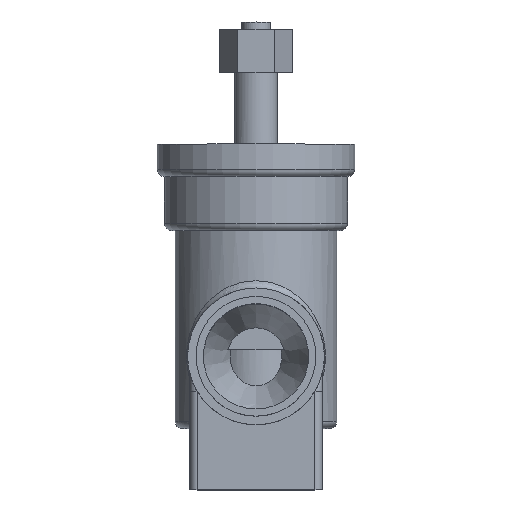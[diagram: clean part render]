
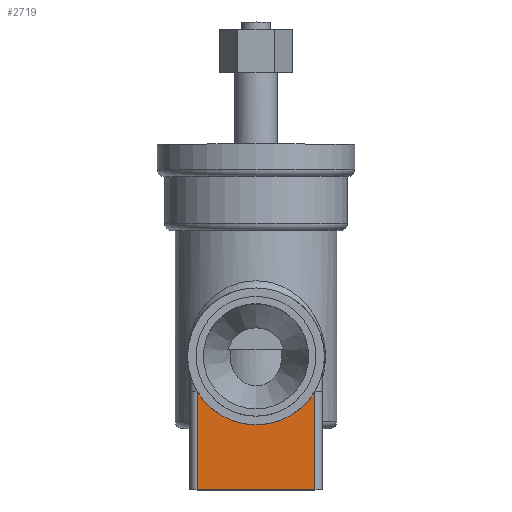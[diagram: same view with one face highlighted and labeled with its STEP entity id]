
A CAD part, top view. The second image highlights one B-rep face of the part: STEP entity #2719.
In plain terms, the highlighted planar face has unit normal (0, 0, 1).
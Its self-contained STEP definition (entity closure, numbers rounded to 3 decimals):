
#269=FACE_OUTER_BOUND('',#434,.T.);
#434=EDGE_LOOP('',(#1819,#1820,#1821,#1822,#1823));
#620=CIRCLE('',#2916,19.);
#621=CIRCLE('',#2917,19.);
#780=LINE('',#4078,#925);
#783=LINE('',#4106,#928);
#784=LINE('',#4108,#929);
#925=VECTOR('',#3252,10.);
#928=VECTOR('',#3267,10.);
#929=VECTOR('',#3268,10.);
#1076=VERTEX_POINT('',#4075);
#1077=VERTEX_POINT('',#4077);
#1082=VERTEX_POINT('',#4105);
#1083=VERTEX_POINT('',#4107);
#1084=VERTEX_POINT('',#4109);
#1368=EDGE_CURVE('',#1076,#1077,#780,.T.);
#1376=EDGE_CURVE('',#1076,#1082,#783,.T.);
#1377=EDGE_CURVE('',#1083,#1082,#784,.T.);
#1378=EDGE_CURVE('',#1084,#1083,#620,.T.);
#1379=EDGE_CURVE('',#1077,#1084,#621,.T.);
#1819=ORIENTED_EDGE('',*,*,#1368,.F.);
#1820=ORIENTED_EDGE('',*,*,#1376,.T.);
#1821=ORIENTED_EDGE('',*,*,#1377,.F.);
#1822=ORIENTED_EDGE('',*,*,#1378,.F.);
#1823=ORIENTED_EDGE('',*,*,#1379,.F.);
#2651=PLANE('',#2915);
#2719=ADVANCED_FACE('',(#269),#2651,.T.);
#2915=AXIS2_PLACEMENT_3D('',#4104,#3265,#3266);
#2916=AXIS2_PLACEMENT_3D('',#4110,#3269,#3270);
#2917=AXIS2_PLACEMENT_3D('',#4111,#3271,#3272);
#3252=DIRECTION('',(0.,1.,0.));
#3265=DIRECTION('center_axis',(0.,0.,
1.));
#3266=DIRECTION('ref_axis',(1.,0.,0.));
#3267=DIRECTION('',(1.,0.,0.));
#3268=DIRECTION('',(0.,-1.,0.));
#3269=DIRECTION('center_axis',(0.,0.,
1.));
#3270=DIRECTION('ref_axis',(0.,1.,0.));
#3271=DIRECTION('center_axis',(0.,0.,
1.));
#3272=DIRECTION('ref_axis',(0.,1.,0.));
#4075=CARTESIAN_POINT('',(-16.33,-37.,-32.578));
#4077=CARTESIAN_POINT('',(-16.33,-9.712,-32.578));
#4078=CARTESIAN_POINT('',(-16.33,-23.279,-32.578));
#4104=CARTESIAN_POINT('Origin',(0.,-9.558,
-32.578));
#4105=CARTESIAN_POINT('',(16.33,-37.,-32.578));
#4106=CARTESIAN_POINT('',(-18.33,-37.,-32.578));
#4107=CARTESIAN_POINT('',(16.33,-9.712,-32.578));
#4108=CARTESIAN_POINT('',(16.33,-7.279,-32.578));
#4109=CARTESIAN_POINT('',(0.,-19.,-32.578));
#4110=CARTESIAN_POINT('Origin',(0.,0.,-32.578));
#4111=CARTESIAN_POINT('Origin',(0.,0.,-32.578));
